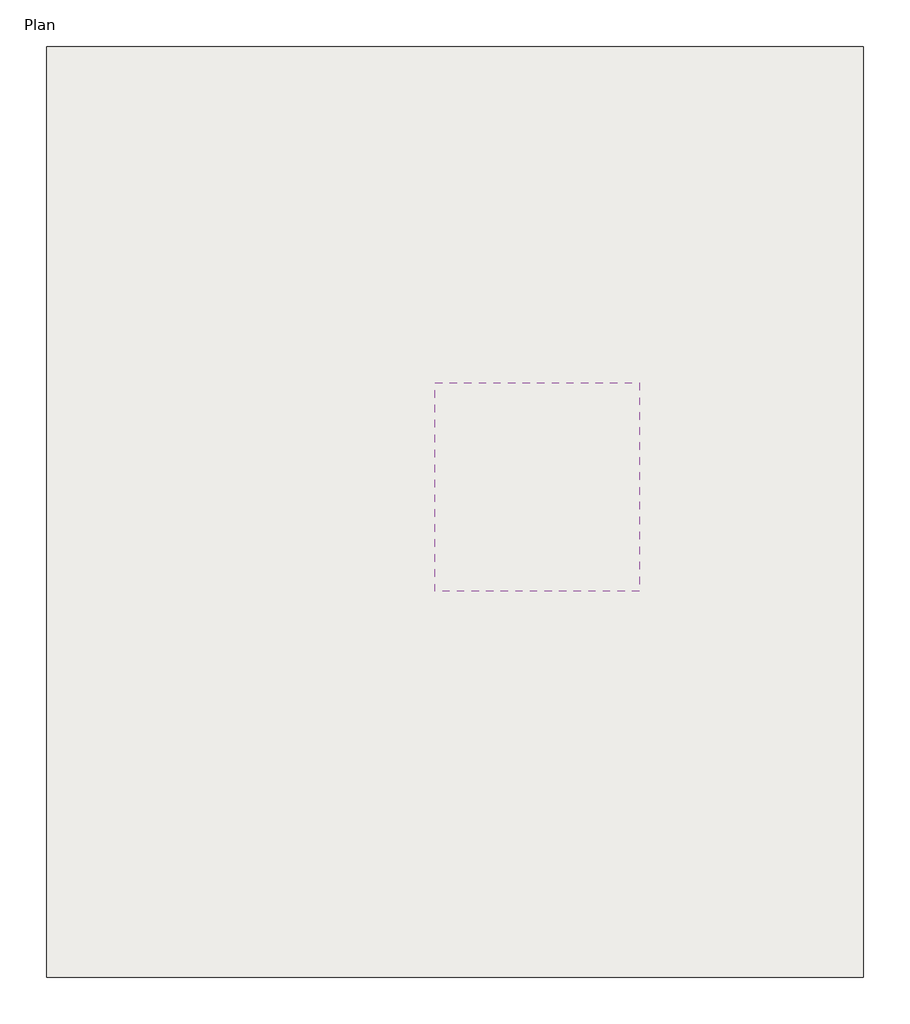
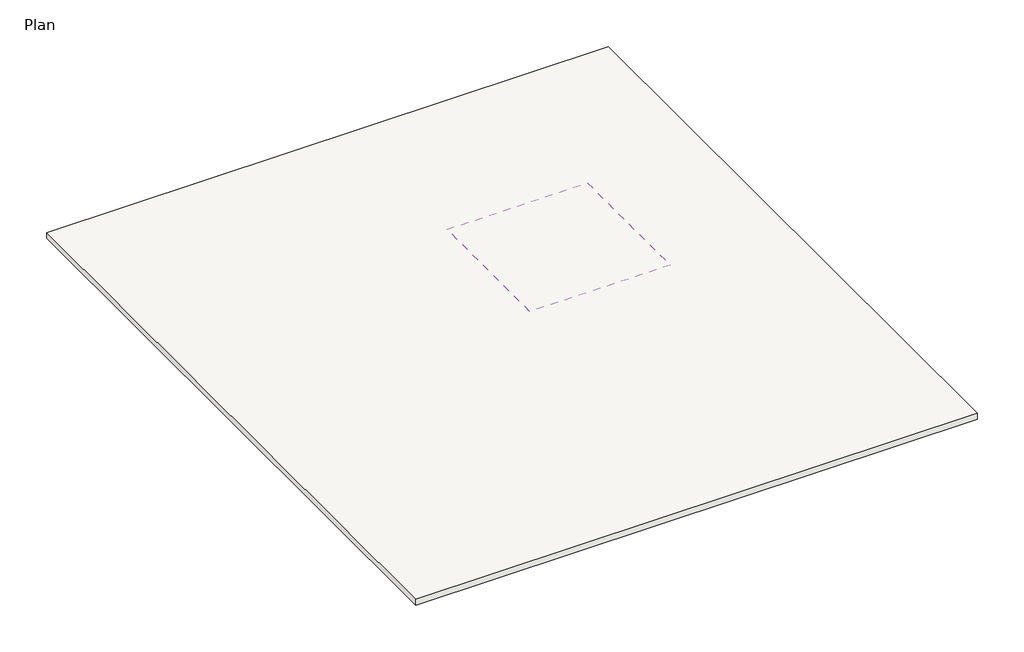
# One storey, incomplete: 1 covering, 1 slab.
"""IFC4 building model written with IfcOpenShell, lengths in millimetres."""

from ifc_helpers import new_model, si_unit, frame, origin, place, context, project, spatial, polyline, outline, extrude, element, save

model = new_model("IFC4")

# Units and contexts
model_context = context("Model", 3, world=origin())
ifc_project = project(units=[si_unit("LENGTHUNIT", "METRE", prefix="MILLI")], contexts=[model_context])

# Site, building, storey
site = spatial("IfcSite", under=ifc_project)
building = spatial("IfcBuilding", under=site)
storey = spatial("IfcBuildingStorey", under=building, Name="Plan", Elevation=0.0)

# Covering
placement = place(None, origin())
element("IfcCovering", 1, ObjectType="GWB on Furring", at=placement, inside=storey, context=model_context, shape_type="SweptSolid", body=[
    extrude(outline(polyline([(-3558.7130132, -1990.7499957), (-3558.7130132, 5019.6500043), (3299.2869868, 5019.6500043), (3299.2869868, -1990.7499957), (-3558.7130132, -1990.7499957)])), frame((0.0, 0.0, 2438.4), z_axis=(0.0, 0.0, 1.0), x_axis=(1.0, 0.0, 0.0)), (0.0, 0.0, 1.0), 31.75),
])

# Slab
element("IfcSlab", 2, ObjectType="Generic - 12\"", at=placement, inside=storey, context=model_context, shape_type="SweptSolid", body=[
    extrude(outline(polyline([(10827.0268503, 16298.624471), (10827.0268503, -14943.375529), (-16604.9731497, -14943.375529), (-16604.9731497, 16298.624471), (10827.0268503, 16298.624471)])), frame((0.0, 0.0, -304.8), z_axis=(0.0, 0.0, 1.0), x_axis=(1.0, 0.0, 0.0)), (0.0, 0.0, 1.0), 304.8),
])

save(model, "model.ifc")
